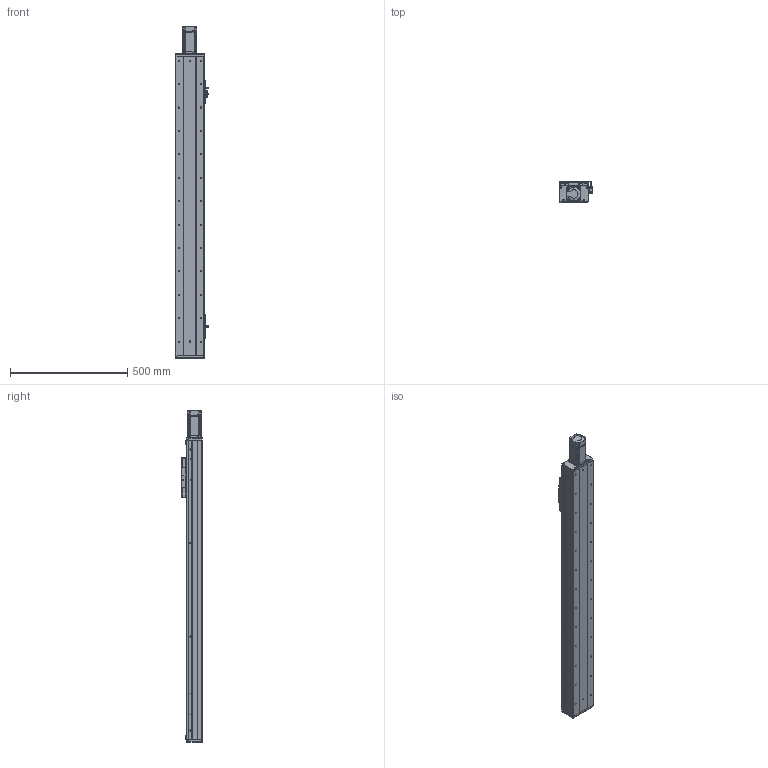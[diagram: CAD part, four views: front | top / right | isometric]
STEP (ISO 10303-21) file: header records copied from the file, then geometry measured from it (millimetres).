
FILE_DESCRIPTION (( 'STEP AP203' ), '1' );
FILE_NAME ('RY120F-L2010-1000-MK.SLDASM_1000.step', '2021-03-02T06:05:59', ( '盈信电脑' ), ( '东莞市道滘镇水果街19号' ), 'SwSTEP 2.0', 'SolidWorks 2012', '' );
FILE_SCHEMA (( 'CONFIG_CONTROL_DESIGN' ));
Length unit declared in the file: millimetre
Products named in the file (22): RY120F-L2010-1000-MK.SLDASM_1000; 粣杶; RY120F-蚥薯蝶幗謫郪磁; 滅袉蝶18-17; RY120F-钢带滚轮轴(优力胶); 蚥薯蝶幗謫; MF95ZZ; FY120F詩湍揤踡輸; RY80俋离覜茼え; 672嫖萇羲壽假蚾釱; 滅袉蝶18-24; 覜茼ん672; RY120F不锈钢防尘盖(优力胶）; RY120F綴裔啣(臏璃ㄘ; 侂狟400W侜督萇儂; RY120F-铝滑块上座（优力胶）; 15; RY120F眻蟀ヶ裔啣; RY120F-1000-倰第菁釱_1000; RY120F-臏賑輸 20蹟譫; RY120F-1000-倰第裔啣_1000; RY120F滅鳥詩湍-1000-MK_1000
Assembly tree (32 placements, depth 3):
  RY120F-L2010-1000-MK.SLDASM_1000
    RY120F-1000-倰第菁釱_1000
    RY120F-1000-倰第裔啣_1000  x2
    RY120F滅鳥詩湍-1000-MK_1000
    RY120F-臏賑輸 20蹟譫
    RY120F-铝滑块上座（优力胶）
    侂狟400W侜督萇儂
      15
    RY120F眻蟀ヶ裔啣
    RY120F不锈钢防尘盖(优力胶）
    滅袉蝶18-24
    RY120F綴裔啣(臏璃ㄘ
    覜茼ん672  x3
    672嫖萇羲壽假蚾釱  x2
    RY80俋离覜茼え
    FY120F詩湍揤踡輸  x2
    滅袉蝶18-17  x2
    RY120F-蚥薯蝶幗謫郪磁
      RY120F-钢带滚轮轴(优力胶)
      蚥薯蝶幗謫  x2
      MF95ZZ  x4
      粣杶  x2
Bounding box: 140.35 x 89 x 1418.5 mm (x, y, z)
Volume: 4172928.5 mm3; surface area: 1514310.5 mm2
Topology: 30 solids, 30 shells, 2077 faces, 5565 edges, 3555 vertices
Faces by surface type: cylinder 964, plane 880, cone 215, bspline 18
Entity records: 57633 total; most frequent: CARTESIAN_POINT 10430, DIRECTION 9685, ORIENTED_EDGE 9006, EDGE_CURVE 4503, AXIS2_PLACEMENT_3D 3522, VERTEX_POINT 2947, LINE 2641, VECTOR 2641
